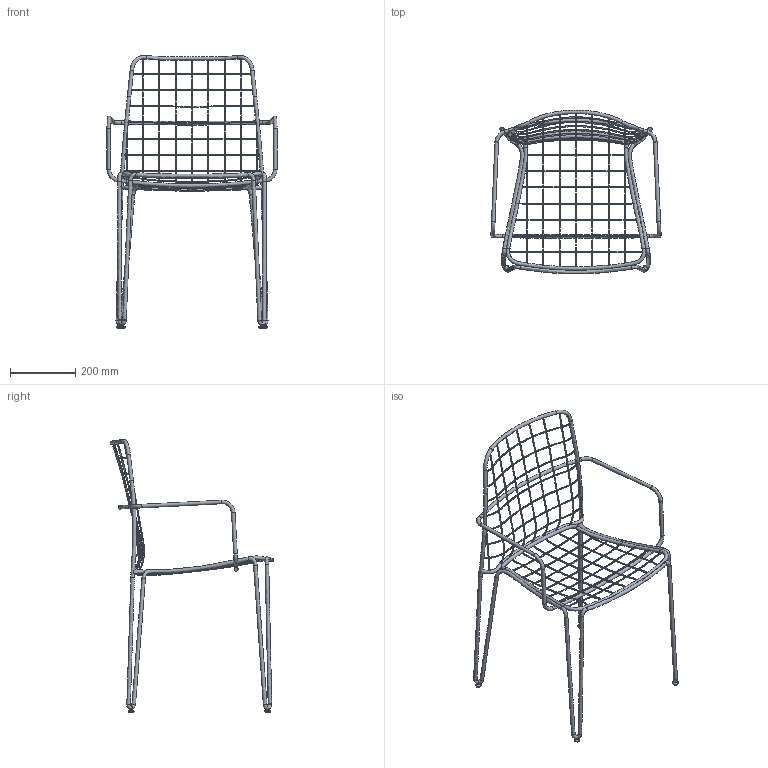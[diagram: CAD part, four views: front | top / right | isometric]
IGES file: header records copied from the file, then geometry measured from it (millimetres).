
Global section: file name: CI-A05C; native system: Autodesk Inventor 2022; preprocessor: unknown; author: Administrator; date: 20211124.133622; units: millimetre
Bounding box: 519.99 x 500.25 x 834.95 mm (x, y, z)
Volume: 998144 mm3; surface area: 443265.3 mm2
Topology: 41 solids, 41 shells, 195 faces, 377 edges, 261 vertices
Faces by surface type: bspline 195
